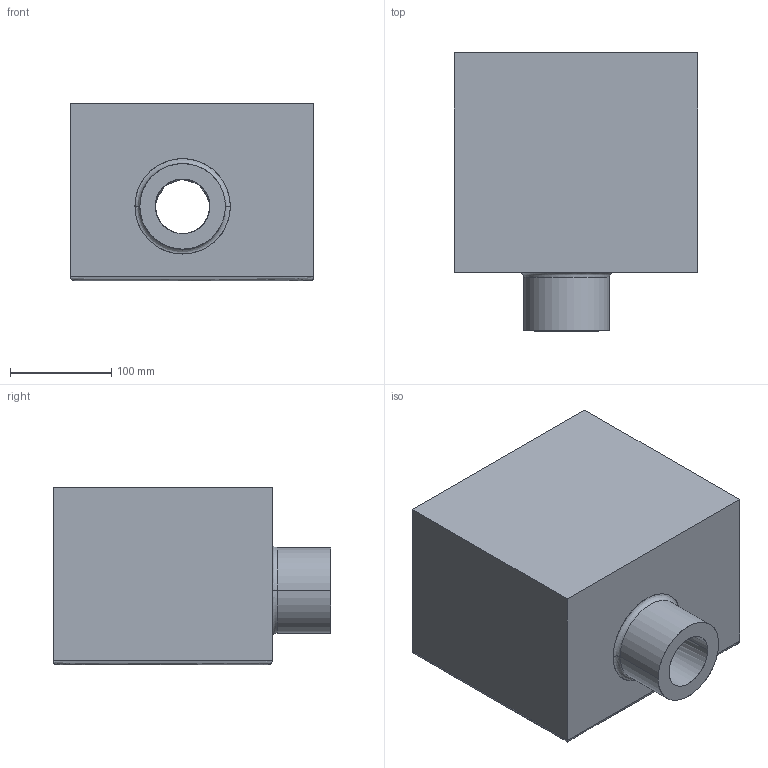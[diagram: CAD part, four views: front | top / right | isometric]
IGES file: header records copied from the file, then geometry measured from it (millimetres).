
Start section: START RECORD GO HERE.
Global section: file name: E:\prowork\test_rep.igs; native system: IBM CATIA IGES - CATIA Version 5 Release 9 ; preprocessor: CATIA Version 5 Release 9 ; organization: DASSAULT SYSTEMES; date: 20040622.204124; units: millimetre
Bounding box: 240.76 x 274.51 x 175.75 mm (x, y, z)
Surface area: 325172.2 mm2 (no closed solid volume)
Topology: 0 solids, 0 shells, 61 faces, 288 edges, 288 vertices
Faces by surface type: bspline 24, revolution 21, plane 16
